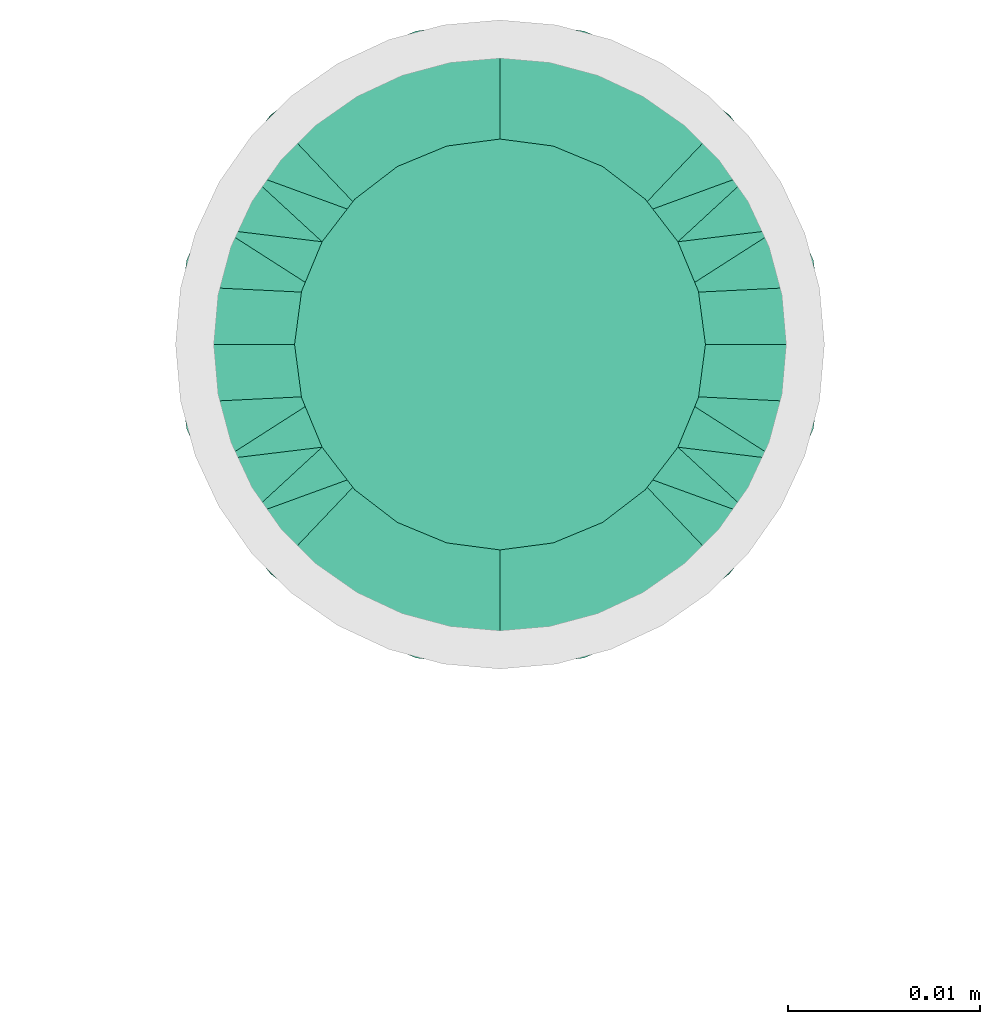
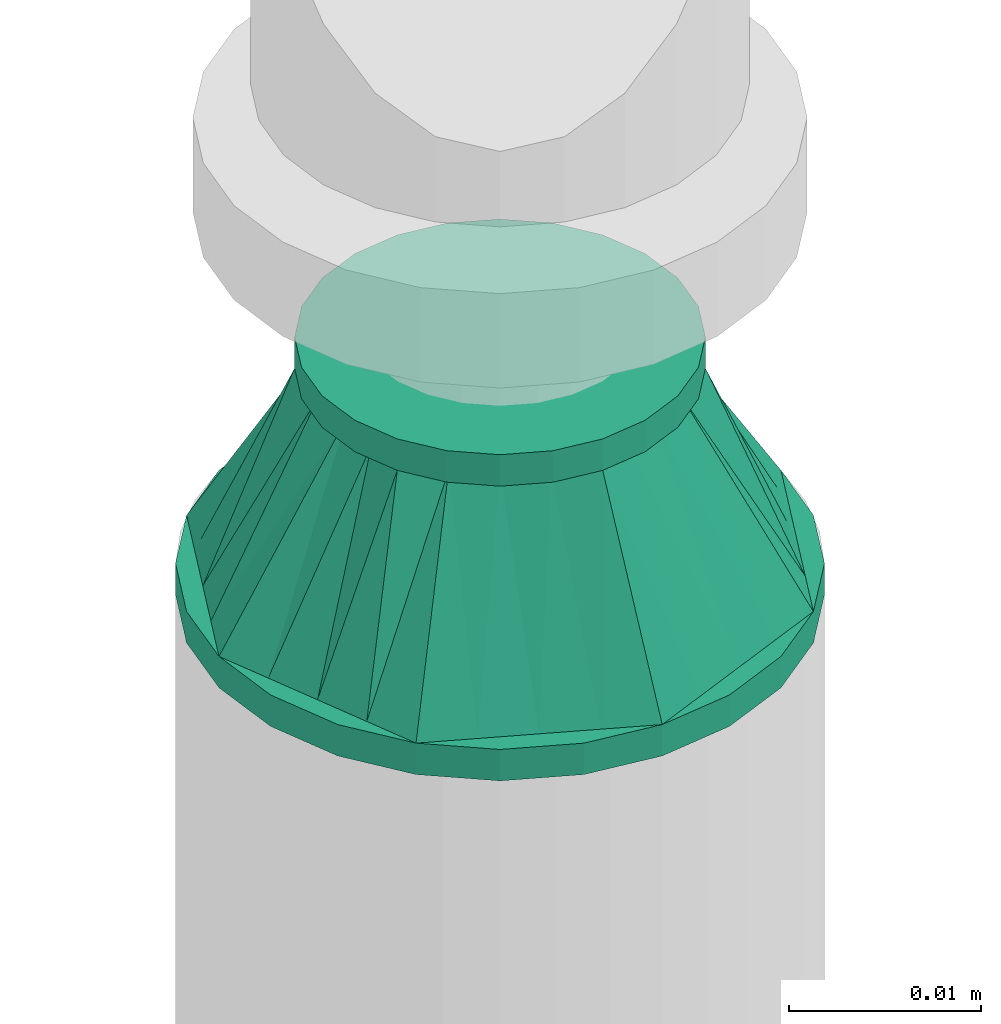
# One storey, part 33 of 44: 1 flow fitting.
"""IFC2X3 building model written with IfcOpenShell, lengths in millimetres."""

import ifcopenshell
import ifcopenshell.guid

model = None  # the IFC model being written
_history = None  # IfcOwnerHistory: only IFC2X3 demands one
_inside = {}  # id of a spatial element -> (the spatial element, [elements in it])
_under = {}  # id of a project, library or spatial element -> (it, [spatial elements below it])
_declared = {}  # id of a project -> (the project, [libraries it declares])
_typed = {}  # id of a type object -> (the type object, [elements of that type])
_made_of = {}  # id of a material, layer set ... -> (it, [elements and type objects made of it])


def new_model(schema):
    """Start an empty IFC model of exactly this schema.

    Asked for "IFC4X3", IfcOpenShell would pick the latest addendum, in which some entities
    have other attributes; the version numbers below select the first issue.
    IFC2X3 requires an IfcOwnerHistory on every rooted entity: one is made here for all.
    """
    global model, _history
    if schema == "IFC4X3":
        model = ifcopenshell.file(schema_version=(4, 3, 0, 0))
    else:
        model = ifcopenshell.file(schema=schema)
    _inside.clear()
    _under.clear()
    _declared.clear()
    _typed.clear()
    _made_of.clear()
    _history = None
    if model.schema == "IFC2X3":
        org = make("IfcOrganization", Name="unknown")
        user = make(
            "IfcPersonAndOrganization",
            ThePerson=make("IfcPerson", FamilyName="unknown"),
            TheOrganization=org,
        )
        app = make(
            "IfcApplication",
            ApplicationDeveloper=org,
            Version="unknown",
            ApplicationFullName="unknown",
            ApplicationIdentifier="unknown",
        )
        _history = make(
            "IfcOwnerHistory",
            OwningUser=user,
            OwningApplication=app,
            ChangeAction="ADDED",
            CreationDate=0,
        )
    return model


def make(cls, **values):
    """One entity of the class cls with the attributes given. An attribute that is None is left unset."""
    return model.create_entity(
        cls, **{name: value for name, value in values.items() if value is not None}
    )


def entity(cls, *values):
    """Any entity or typed value of the class cls, its attributes in the order of the schema. None: left unset."""
    e = model.create_entity(cls)
    for i, value in enumerate(values):
        if value is not None:
            e[i] = value
    return e


def rooted(cls, **values):
    """An entity with a GlobalId (a new one), such as an element, a storey or a relation."""
    return make(cls, GlobalId=ifcopenshell.guid.new(), OwnerHistory=_history, **values)


def si_unit(unit_type, name, prefix=None):
    """IfcSIUnit, for example si_unit("LENGTHUNIT", "METRE", prefix="MILLI")."""
    return make("IfcSIUnit", UnitType=unit_type, Prefix=prefix, Name=name)


def converted_unit(unit_type, name, factor, base, dimensions=None, offset=None):
    """IfcConversionBasedUnit, such as the inch: factor (a typed value) times the base unit."""
    return make(
        "IfcConversionBasedUnit"
        if offset is None
        else "IfcConversionBasedUnitWithOffset",
        ConversionOffset=offset,
        Dimensions=None
        if dimensions is None
        else entity("IfcDimensionalExponents", *dimensions),
        UnitType=unit_type,
        Name=name,
        ConversionFactor=make(
            "IfcMeasureWithUnit", ValueComponent=factor, UnitComponent=base
        ),
    )


def derived_unit(unit_type, elements):
    """IfcDerivedUnit: a product of units, each with its exponent."""
    return make(
        "IfcDerivedUnit",
        Elements=[
            make("IfcDerivedUnitElement", Unit=unit, Exponent=power)
            for unit, power in elements
        ],
        UnitType=unit_type,
    )


def assignment(units):
    """IfcUnitAssignment: the units of a project."""
    return None if units is None else make("IfcUnitAssignment", Units=units)


def point(xyz):
    """IfcCartesianPoint."""
    return None if xyz is None else make("IfcCartesianPoint", Coordinates=xyz)


def direction(xyz):
    """IfcDirection."""
    return None if xyz is None else make("IfcDirection", DirectionRatios=xyz)


def frame(location, z_axis=None, x_axis=None):
    """IfcAxis2Placement3D, a coordinate frame: its origin and axes. An axis left out is left unset."""
    return make(
        "IfcAxis2Placement3D",
        Location=point(location),
        Axis=direction(z_axis),
        RefDirection=direction(x_axis),
    )


def origin_with_axes():
    """The frame at (0, 0, 0) with the z axis (0, 0, 1) and the x axis (1, 0, 0) written out."""
    return frame((0.0, 0.0, 0.0), z_axis=(0.0, 0.0, 1.0), x_axis=(1.0, 0.0, 0.0))


def place(relative_to, where):
    """IfcLocalPlacement: puts the frame where relative to a parent placement (None: the world)."""
    return make(
        "IfcLocalPlacement", PlacementRelTo=relative_to, RelativePlacement=where
    )


def context(
    kind, dimensions, precision=None, world=None, true_north=None, identifier=None
):
    """IfcGeometricRepresentationContext, for example the 3D "Model" context."""
    return make(
        "IfcGeometricRepresentationContext",
        ContextIdentifier=identifier,
        ContextType=kind,
        CoordinateSpaceDimension=dimensions,
        Precision=precision,
        WorldCoordinateSystem=world,
        TrueNorth=true_north,
    )


def subcontext(parent, identifier, kind, view, scale=None):
    """IfcGeometricRepresentationSubContext, for example "Body" below "Model"."""
    return make(
        "IfcGeometricRepresentationSubContext",
        ContextIdentifier=identifier,
        ContextType=kind,
        ParentContext=parent,
        TargetScale=scale,
        TargetView=view,
    )


def project(units=None, contexts=None):
    """IfcProject with its units and contexts."""
    return rooted(
        "IfcProject",
        Name="project",
        RepresentationContexts=contexts,
        UnitsInContext=assignment(units),
    )


def spatial(cls, under=None, at=None, **own):
    """A site, building, storey or space (cls), placed at a placement, below another one or the project."""
    s = rooted(cls, ObjectPlacement=at, **own)
    if under is not None:
        _under.setdefault(under.id(), (under, []))[1].append(s)
    return s


def faces_of(points, faces, orient=None, outer=None):
    """IfcFace entities. A face is a list of loops; a loop is a list of indices into points, from 0.

    orient and outer hold one flag for each loop. By default every Orientation is true, the
    first loop of a face is its IfcFaceOuterBound and the others are IfcFaceBound.
    """
    made = []
    for i, loops in enumerate(faces):
        bounds = []
        for j, loop in enumerate(loops):
            is_outer = j == 0 if outer is None else outer[i][j]
            bounds.append(
                make(
                    "IfcFaceOuterBound" if is_outer else "IfcFaceBound",
                    Bound=make("IfcPolyLoop", Polygon=[points[k] for k in loop]),
                    Orientation=True if orient is None else orient[i][j],
                )
            )
        made.append(make("IfcFace", Bounds=bounds))
    return made


def open_shell(faces, orient=None, outer=None):
    """The faces of one IfcOpenShell. surface_model builds it on its shared points."""
    return ("IfcOpenShell", faces, orient, outer)


def surface_model(cls, points, shells):
    """IfcFaceBasedSurfaceModel or IfcShellBasedSurfaceModel (cls): surfaces that need not close."""
    shared = [point(p) for p in points]
    made = [make(c, CfsFaces=faces_of(shared, fs, o, b)) for c, fs, o, b in shells]
    if cls == "IfcFaceBasedSurfaceModel":
        return make(cls, FbsmFaces=made)
    return make(cls, SbsmBoundary=made)


def shape(context_of_items, identifier, shape_type, items):
    """IfcShapeRepresentation: the items that make up one representation, for example the "Body"."""
    return make(
        "IfcShapeRepresentation",
        ContextOfItems=context_of_items,
        RepresentationIdentifier=identifier,
        RepresentationType=shape_type,
        Items=items,
    )


def source(mapping_origin, context_of_items, identifier, shape_type, items):
    """IfcRepresentationMap: a shape defined once, which mapped items show again and again."""
    return make(
        "IfcRepresentationMap",
        MappingOrigin=mapping_origin,
        MappedRepresentation=shape(context_of_items, identifier, shape_type, items),
    )


def transform(
    local_origin,
    x_axis=None,
    y_axis=None,
    z_axis=None,
    scale=None,
    scale2=None,
    scale3=None,
    uniform=True,
):
    """IfcCartesianTransformationOperator3D, or its non-uniform kind. x_axis, y_axis, z_axis: its Axis1, 2, 3."""
    if uniform:
        return make(
            "IfcCartesianTransformationOperator3D",
            Axis1=direction(x_axis),
            Axis2=direction(y_axis),
            LocalOrigin=point(local_origin),
            Scale=scale,
            Axis3=direction(z_axis),
        )
    return make(
        "IfcCartesianTransformationOperator3DnonUniform",
        Axis1=direction(x_axis),
        Axis2=direction(y_axis),
        LocalOrigin=point(local_origin),
        Scale=scale,
        Axis3=direction(z_axis),
        Scale2=scale2,
        Scale3=scale3,
    )


def mapped(mapping_source, mapping_target):
    """IfcMappedItem: shows the shape of a source again, moved by a transform."""
    return make(
        "IfcMappedItem", MappingSource=mapping_source, MappingTarget=mapping_target
    )


def made_of(thing, what):
    """Note that an element or type object is made of a material, layer set ...; save() writes the relation."""
    if what is not None:
        _made_of.setdefault(what.id(), (what, []))[1].append(thing)
    return thing


def type_object(cls, material=None, **own):
    """A type object (cls), such as IfcWallType, which elements share."""
    return made_of(rooted(cls, **own), material)


def element(
    cls,
    number,
    at=None,
    inside=None,
    cuts=None,
    type_object=None,
    material=None,
    context=None,
    identifier="Body",
    shape_type=None,
    held_by="IfcProductDefinitionShape",
    body=None,
    shapes=None,
    **own,
):
    """One element of the class cls, such as IfcWall. Its Tag is "e" and its number.

    at: its placement. inside: the storey or other place that contains it. cuts: it is an
    opening in that element (IfcRelVoidsElement). A single representation is given by context,
    identifier, shape_type and body (its items); several are given by shapes. held_by: the class
    of the entity that holds the representations. save() writes the other relations.
    """
    e = rooted(cls, Tag="e%d" % number, ObjectPlacement=at, **own)
    if body is not None:
        shapes = [shape(context, identifier, shape_type, body)]
    if shapes is not None:
        e.Representation = make(held_by, Representations=shapes)
    if inside is not None:
        _inside.setdefault(inside.id(), (inside, []))[1].append(e)
    if cuts is not None:
        rooted(
            "IfcRelVoidsElement", RelatingBuildingElement=cuts, RelatedOpeningElement=e
        )
    if type_object is not None:
        _typed.setdefault(type_object.id(), (type_object, []))[1].append(e)
    return made_of(e, material)


def aggregate(whole, parts):
    """IfcRelAggregates: a whole, such as a stair, and the parts it consists of."""
    return rooted("IfcRelAggregates", RelatingObject=whole, RelatedObjects=parts)


def save(model, path):
    """Write the relations noted so far, then the file.

    IfcRelAggregates (storeys below a building ...), IfcRelContainedInSpatialStructure (elements
    in a storey), IfcRelDefinesByType, IfcRelAssociatesMaterial and IfcRelDeclares: one each for
    every whole, place, type object, material and project.
    """
    for whole, parts in _under.values():
        aggregate(whole, parts)
    for where, things in _inside.values():
        rooted(
            "IfcRelContainedInSpatialStructure",
            RelatedElements=things,
            RelatingStructure=where,
        )
    for kind, things in _typed.values():
        rooted("IfcRelDefinesByType", RelatedObjects=things, RelatingType=kind)
    for what, things in _made_of.values():
        rooted("IfcRelAssociatesMaterial", RelatedObjects=things, RelatingMaterial=what)
    for by, libraries in _declared.values():
        rooted("IfcRelDeclares", RelatingContext=by, RelatedDefinitions=libraries)
    model.write(path)


model = new_model("IFC2X3")

# Units and contexts
model_context = context("Model", 3, precision=0.01, world=frame((0.0, 4.29681676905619e-09, 0.0)), true_north=direction((4.01073788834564e-13, 1.0)))
plan_context = context("Plan", 3, precision=0.01, world=frame((0.0, 4.29681676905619e-09, 0.0)), true_north=direction((4.01073788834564e-13, 1.0)))
body_context = subcontext(model_context, "Body", "Model", "MODEL_VIEW")
ifc_project = project(units=[converted_unit("PLANEANGLEUNIT", "DEGREE", entity("IfcPositiveLengthMeasure", 0.0174532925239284), si_unit("PLANEANGLEUNIT", "RADIAN"), dimensions=[0, 0, 0, 0, 0, 0, 0]), si_unit("AREAUNIT", "SQUARE_METRE"), si_unit("LENGTHUNIT", "METRE", prefix="MILLI"), si_unit("MASSUNIT", "GRAM", prefix="KILO"), si_unit("POWERUNIT", "WATT"), si_unit("PRESSUREUNIT", "PASCAL"), si_unit("FORCEUNIT", "NEWTON", prefix="KILO"), si_unit("ELECTRICVOLTAGEUNIT", "VOLT"), si_unit("ELECTRICCURRENTUNIT", "AMPERE"), si_unit("THERMODYNAMICTEMPERATUREUNIT", "DEGREE_CELSIUS"), si_unit("TIMEUNIT", "SECOND"), si_unit("VOLUMEUNIT", "CUBIC_METRE"), derived_unit("LINEARVELOCITYUNIT", [(si_unit("LENGTHUNIT", "METRE"), 1), (si_unit("TIMEUNIT", "SECOND"), -1)]), derived_unit("VOLUMETRICFLOWRATEUNIT", [(si_unit("VOLUMEUNIT", "CUBIC_METRE"), 1), (si_unit("TIMEUNIT", "SECOND"), -1)]), derived_unit("THERMALTRANSMITTANCEUNIT", [(si_unit("POWERUNIT", "WATT"), 1), (si_unit("THERMODYNAMICTEMPERATUREUNIT", "KELVIN"), -1), (si_unit("AREAUNIT", "SQUARE_METRE"), -1)]), derived_unit("SOUNDPRESSUREUNIT", [(si_unit("PRESSUREUNIT", "PASCAL"), 1)])], contexts=[model_context, plan_context])

# Site, building, storey
site_placement = place(None, frame((0.0, -4.29681676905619e-09, 0.0), z_axis=(0.0, 0.0, 1.0), x_axis=(1.0, 0.0, 0.0)))
site = spatial("IfcSite", under=ifc_project, at=site_placement, CompositionType="ELEMENT")
building_placement = place(site_placement, frame((0.0, 4.29681676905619e-09, 0.0), z_axis=(0.0, 0.0, 1.0), x_axis=(1.0, 0.0, 0.0)))
building = spatial("IfcBuilding", under=site, at=building_placement, Name="mc-building", CompositionType="ELEMENT")
storey_placement = place(building_placement, frame((0.0, 0.0, 207370.0), z_axis=(0.0, 0.0, 1.0), x_axis=(1.0, 0.0, 0.0)))
storey = spatial("IfcBuildingStorey", under=building, at=storey_placement, Name="Nivå E", CompositionType="ELEMENT", Elevation=207370.0)

# Flow fitting
pipe_fitting_type = type_object("IfcPipeFittingType", Name="magi_pipe_fe_reducer_centric_short_NOR", PredefinedType="TRANSITION")
shared_shape = source(origin_with_axes(), body_context, "Body", "SurfaceModel", [
    surface_model("IfcShellBasedSurfaceModel", [(14.4, 5.35, -9.26647), (14.4, 0.0, -10.7), (14.4, 2.76936, -10.33541), (14.4, 10.33541, -2.76936), (14.4, 7.56604, -7.56604), (14.4, -10.33541, -2.76936), (14.4, 9.26647, -5.35), (14.4, 0.0, 10.7), (14.4, -5.35, -9.26647), (14.4, -2.76936, -10.33541), (14.4, -7.56604, -7.56604), (14.4, -9.26647, -5.35), (14.4, 10.7, 0.0), (14.4, 10.33541, 2.76936), (14.4, 9.26647, 5.35), (14.4, 7.56604, 7.56604), (14.4, 2.76936, 10.33541), (14.4, 5.35, 9.26647), (14.4, -10.33541, 2.76936), (14.4, -7.56604, 7.56604), (14.4, -9.26647, 5.35), (14.4, -10.7, 0.0), (14.4, -2.76936, 10.33541), (14.4, -5.35, 9.26647), (12.4, 2.76936, 10.33541), (12.4, -10.33541, -2.76936), (12.4, 0.0, 10.7), (12.4, 5.35, 9.26647), (12.4, 7.56604, 7.56604), (12.4, 9.26647, 5.35), (12.4, 10.33541, 2.76936), (12.4, -10.33541, 2.76936), (12.4, -2.76936, 10.33541), (12.4, -7.56604, 7.56604), (12.4, -5.35, 9.26647), (12.4, -9.26647, 5.35), (12.4, -10.7, 0.0), (12.4, 10.33541, -2.76936), (12.4, 5.35, -9.26647), (12.4, 9.26647, -5.35), (12.4, 7.56604, -7.56604), (12.4, 2.76936, -10.33541), (12.4, -9.26647, -5.35), (12.4, -5.35, -9.26647), (12.4, -7.56604, -7.56604), (12.4, 0.0, -10.7), (12.4, -2.76936, -10.33541), (12.4, 10.7, 0.0), (-2.0, 11.9501, 11.9501), (-2.0, 0.0, 16.9), (-2.0, 4.37404, 16.32415), (-2.0, 8.45, 14.63583), (-2.0, 14.63583, 8.45), (-2.0, 16.32415, 4.37404), (-2.0, -16.32415, 4.37404), (-2.0, -8.45, 14.63583), (-2.0, -14.63583, 8.45), (-2.0, -11.9501, 11.9501), (-2.0, -4.37404, 16.32415), (-2.0, -16.32415, -4.37404), (-2.0, -16.9, 0.0), (-2.0, -8.45, -14.63583), (-2.0, 16.32415, -4.37404), (-2.0, 11.9501, -11.9501), (-2.0, 14.63583, -8.45), (-2.0, 8.45, -14.63583), (-2.0, 4.37404, -16.32415), (-2.0, 0.0, -16.9), (-2.0, -11.9501, -11.9501), (-2.0, -14.63583, -8.45), (-2.0, -4.37404, -16.32415), (-2.0, 16.9, 0.0), (0.0, 4.37404, -16.32415), (0.0, 8.45, -14.63583), (0.0, 11.9501, -11.9501), (0.0, 0.0, -16.9), (0.0, 16.32415, -4.37404), (0.0, 16.32415, 4.37404), (0.0, 14.63583, -8.45), (0.0, -8.45, -14.63583), (0.0, -4.37404, -16.32415), (0.0, -11.9501, -11.9501), (0.0, -16.32415, -4.37404), (0.0, -14.63583, -8.45), (0.0, -16.32415, 4.37404), (0.0, 16.9, 0.0), (0.0, 14.63583, 8.45), (0.0, 11.9501, 11.9501), (0.0, 4.37404, 16.32415), (0.0, 8.45, 14.63583), (0.0, 0.0, 16.9), (0.0, -14.63583, 8.45), (0.0, -16.9, 0.0), (0.0, -8.45, 14.63583), (0.0, -11.9501, 11.9501), (0.0, -4.37404, 16.32415), (12.4, 9.3625, -2.31662), (0.0, 14.42505, -5.97505), (0.0, 15.66253, -2.98753), (12.4, -6.6875, -6.94985), (0.0, -13.18758, -8.96258), (0.0, 2.98753, -15.66253), (12.4, 0.0, -9.26647), (12.4, 6.6875, -6.94985), (0.0, 8.96258, -13.18758), (12.4, -9.3625, -2.31662), (0.0, -15.66253, -2.98753), (0.0, -14.42505, -5.97505), (0.0, 5.97505, -14.42505), (0.0, -2.98753, -15.66253), (0.0, -8.96258, -13.18758), (0.0, 13.18758, -8.96258), (12.4, 8.025, -4.63324), (12.4, -2.675, -9.26647), (12.4, 2.675, -9.26647), (0.0, -5.97505, -14.42505), (12.4, -8.025, -4.63324), (12.4, -9.3625, 2.31662), (0.0, -14.42505, 5.97505), (0.0, -15.66253, 2.98753), (12.4, 6.6875, 6.94985), (0.0, 13.18758, 8.96258), (0.0, -2.98753, 15.66253), (12.4, 0.0, 9.26647), (12.4, -6.6875, 6.94985), (0.0, -8.96258, 13.18758), (12.4, 9.3625, 2.31662), (0.0, 15.66253, 2.98753), (0.0, 14.42505, 5.97505), (0.0, -5.97505, 14.42505), (0.0, 2.98753, 15.66253), (0.0, 8.96258, 13.18758), (0.0, -13.18758, 8.96258), (12.4, -8.025, 4.63324), (12.4, 2.675, 9.26647), (12.4, -2.675, 9.26647), (0.0, 5.97505, 14.42505), (12.4, 8.025, 4.63324)], [open_shell([[[0, 1, 2]], [[3, 0, 4]], [[5, 0, 3]], [[3, 4, 6]], [[7, 5, 3]], [[1, 8, 9]], [[1, 0, 8]], [[10, 5, 11]], [[5, 10, 8]], [[0, 5, 8]], [[3, 12, 13]], [[13, 14, 15]], [[13, 15, 16]], [[7, 3, 16]], [[16, 15, 17]], [[7, 18, 5]], [[18, 19, 20]], [[21, 5, 18]], [[19, 22, 23]], [[22, 19, 18]], [[7, 22, 18]], [[13, 16, 3]], [[24, 25, 26]], [[27, 25, 24]], [[28, 29, 30]], [[28, 25, 27]], [[31, 26, 25]], [[32, 33, 34]], [[33, 32, 31]], [[33, 31, 35]], [[32, 26, 31]], [[31, 25, 36]], [[30, 37, 28]], [[25, 28, 37]], [[38, 37, 39]], [[37, 38, 25]], [[38, 39, 40]], [[41, 25, 38]], [[42, 43, 44]], [[43, 42, 25]], [[43, 45, 46]], [[43, 25, 41]], [[41, 45, 43]], [[37, 30, 47]], [[25, 5, 36]], [[42, 11, 25]], [[8, 44, 43]], [[42, 44, 10]], [[9, 43, 46]], [[25, 11, 5]], [[5, 21, 36]], [[9, 8, 43]], [[10, 44, 8]], [[10, 11, 42]], [[1, 9, 46]], [[46, 45, 1]], [[41, 2, 45]], [[38, 0, 41]], [[6, 40, 39]], [[38, 40, 4]], [[3, 39, 37]], [[38, 4, 0]], [[0, 2, 41]], [[12, 3, 37]], [[6, 39, 3]], [[6, 4, 40]], [[47, 12, 37]], [[45, 2, 1]], [[30, 13, 47]], [[29, 14, 30]], [[17, 28, 27]], [[29, 28, 15]], [[16, 27, 24]], [[30, 14, 13]], [[13, 12, 47]], [[16, 17, 27]], [[15, 28, 17]], [[15, 14, 29]], [[7, 16, 24]], [[24, 26, 7]], [[32, 22, 26]], [[34, 23, 32]], [[20, 33, 35]], [[34, 33, 19]], [[18, 35, 31]], [[34, 19, 23]], [[23, 22, 32]], [[21, 18, 31]], [[20, 35, 18]], [[20, 19, 33]], [[36, 21, 31]], [[26, 22, 7]], [[48, 49, 50]], [[48, 50, 51]], [[48, 52, 53]], [[48, 53, 49]], [[49, 53, 54]], [[55, 56, 57]], [[55, 58, 49]], [[56, 55, 49]], [[49, 54, 56]], [[54, 59, 60]], [[54, 53, 61]], [[53, 62, 63]], [[63, 62, 64]], [[63, 65, 66]], [[61, 53, 63]], [[67, 63, 66]], [[59, 68, 69]], [[68, 59, 61]], [[61, 67, 70]], [[59, 54, 61]], [[63, 67, 61]], [[53, 71, 62]], [[72, 73, 74]], [[75, 72, 74]], [[74, 76, 77]], [[76, 74, 78]], [[74, 77, 79]], [[75, 79, 80]], [[75, 74, 79]], [[81, 82, 83]], [[82, 81, 79]], [[79, 84, 82]], [[77, 76, 85]], [[77, 86, 87]], [[77, 87, 88]], [[88, 84, 79]], [[88, 87, 89]], [[84, 88, 90]], [[90, 91, 84]], [[92, 82, 84]], [[91, 93, 94]], [[91, 90, 93]], [[93, 90, 95]], [[79, 77, 88]], [[59, 82, 60]], [[69, 83, 59]], [[79, 68, 61]], [[69, 68, 81]], [[80, 61, 70]], [[59, 83, 82]], [[82, 92, 60]], [[80, 79, 61]], [[81, 68, 79]], [[81, 83, 69]], [[75, 80, 70]], [[70, 67, 75]], [[66, 72, 67]], [[65, 73, 66]], [[78, 63, 64]], [[65, 63, 74]], [[76, 64, 62]], [[65, 74, 73]], [[73, 72, 66]], [[85, 76, 62]], [[78, 64, 76]], [[78, 74, 63]], [[71, 85, 62]], [[67, 72, 75]], [[53, 77, 71]], [[52, 86, 53]], [[89, 48, 51]], [[52, 48, 87]], [[88, 51, 50]], [[53, 86, 77]], [[77, 85, 71]], [[88, 89, 51]], [[87, 48, 89]], [[87, 86, 52]], [[90, 88, 50]], [[50, 49, 90]], [[58, 95, 49]], [[55, 93, 58]], [[91, 57, 56]], [[55, 57, 94]], [[84, 56, 54]], [[55, 94, 93]], [[93, 95, 58]], [[92, 84, 54]], [[91, 56, 84]], [[91, 94, 57]], [[60, 92, 54]], [[49, 95, 90]], [[27, 34, 47]], [[47, 34, 43]], [[43, 38, 47]], [[43, 34, 36]], [[90, 87, 94]], [[92, 94, 87]], [[87, 74, 92]], [[75, 92, 74]], [[81, 92, 75]], [[74, 87, 85]], [[96, 97, 98]], [[81, 99, 100]], [[101, 102, 75]], [[98, 85, 47]], [[74, 103, 104]], [[104, 103, 38]], [[105, 106, 107]], [[38, 108, 104]], [[102, 109, 75]], [[110, 99, 81]], [[47, 96, 98]], [[103, 111, 112]], [[109, 102, 113]], [[36, 92, 106]], [[102, 101, 114]], [[110, 115, 43]], [[96, 112, 97]], [[107, 116, 105]], [[36, 106, 105]], [[113, 115, 109]], [[43, 115, 113]], [[116, 107, 100]], [[108, 38, 114]], [[111, 103, 74]], [[111, 97, 112]], [[99, 110, 43]], [[116, 100, 99]], [[101, 108, 114]], [[117, 118, 119]], [[87, 120, 121]], [[122, 123, 90]], [[119, 92, 36]], [[94, 124, 125]], [[125, 124, 34]], [[126, 127, 128]], [[34, 129, 125]], [[123, 130, 90]], [[131, 120, 87]], [[36, 117, 119]], [[124, 132, 133]], [[130, 123, 134]], [[47, 85, 127]], [[123, 122, 135]], [[131, 136, 27]], [[117, 133, 118]], [[128, 137, 126]], [[47, 127, 126]], [[134, 136, 130]], [[27, 136, 134]], [[137, 128, 121]], [[129, 34, 135]], [[132, 124, 94]], [[132, 118, 133]], [[120, 131, 27]], [[137, 121, 120]], [[122, 129, 135]]])]),
])
flow_fitting_placement = place(storey_placement, frame((533500.0, 459009.83177, 3027.60555000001), z_axis=(1.0, 0.0, 0.0), x_axis=(0.0, 0.0, 1.0)))
element("IfcFlowFitting", 1, at=flow_fitting_placement, inside=storey, type_object=pipe_fitting_type, Name="magi_pipe_fe_reducer_centric_short_NOR", context=body_context, shape_type="MappedRepresentation", body=[
    mapped(shared_shape, transform((0.0, 0.0, 0.0), scale=1.0)),
])

save(model, "model.ifc")
